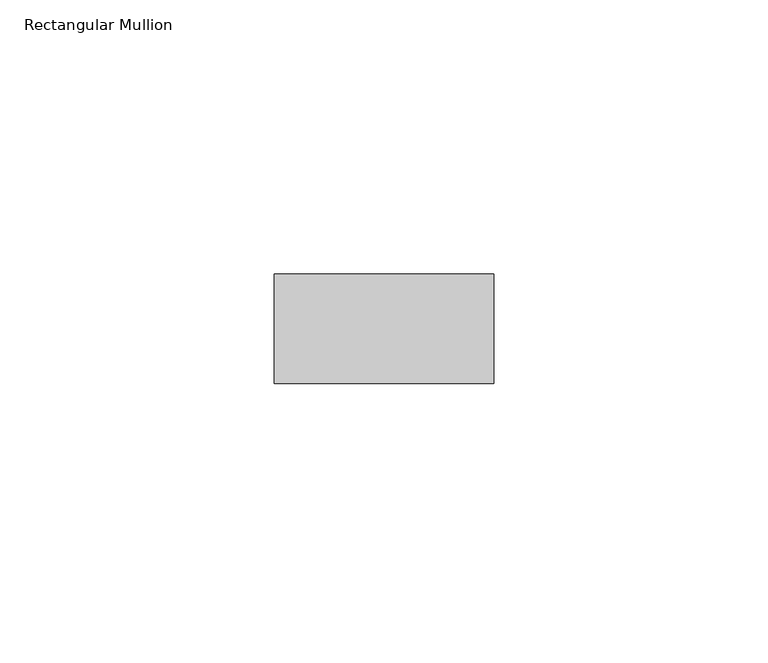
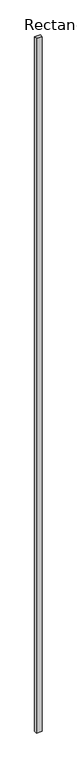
"""IFC4 building model written with IfcOpenShell, lengths in millimetres: member geometry, Rectangular Mullion : RIPA 4x2 cm."""

from ifc_helpers import new_model, si_unit, frame, origin, place, context, project, spatial, polyline, outline, extrude, source, transform, mapped, element, save


def rectangular_mullion_d5565008(model_context):
    return source(origin(), model_context, "Body", "SweptSolid", [
        extrude(outline(polyline([(0.0, 0.0), (0.0, -20.0), (-40.0, -20.0), (-40.0, 0.0), (0.0, 0.0)])), frame((0.0, 0.0, -5100.0), z_axis=(0.0, 0.0, 1.0), x_axis=(1.0, 0.0, 0.0)), (0.0, 0.0, 1.0), 5100.0),
    ])


if __name__ == "__main__":
    model = new_model("IFC4")
    model_context = context("Model", 3, world=origin())
    ifc_project = project(units=[si_unit("LENGTHUNIT", "METRE", prefix="MILLI")], contexts=[model_context])
    site = spatial("IfcSite", under=ifc_project)
    building = spatial("IfcBuilding", under=site)
    placement = place(None, origin())
    rectangular_mullion_shape = rectangular_mullion_d5565008(model_context)
    element("IfcMember", 1, ObjectType="Rectangular Mullion : RIPA 4x2 cm", at=placement, inside=building, context=model_context, shape_type="MappedRepresentation", body=[
        mapped(rectangular_mullion_shape, transform((0.0, 0.0, 0.0), x_axis=(1.0, 0.0, 0.0), y_axis=(0.0, 1.0, 0.0), z_axis=(0.0, 0.0, 1.0))),
    ])
    save(model, "model.ifc")
